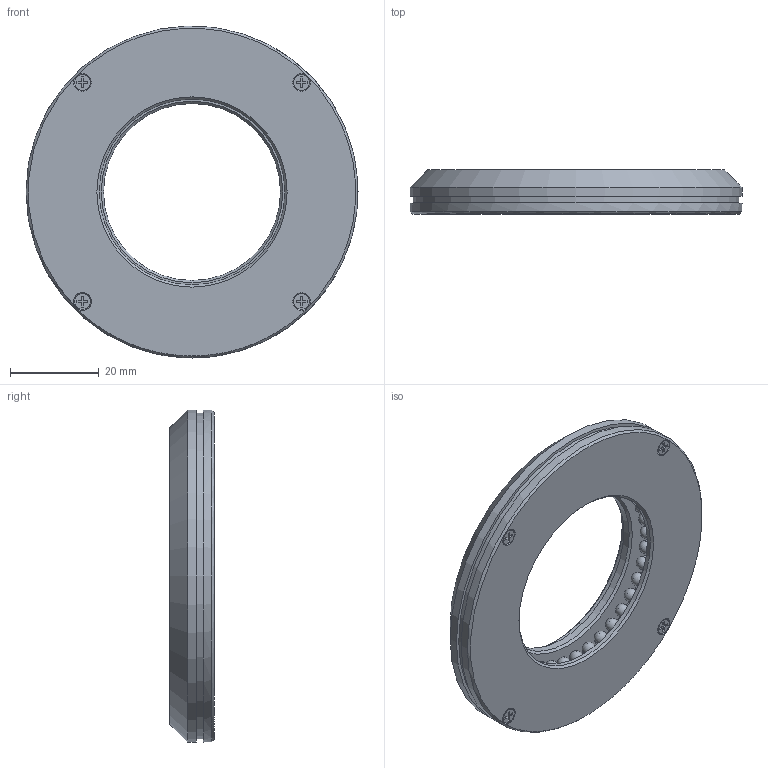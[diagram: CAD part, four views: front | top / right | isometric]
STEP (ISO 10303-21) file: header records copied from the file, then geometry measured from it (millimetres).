
FILE_DESCRIPTION((''),'2;1');
FILE_NAME('D:\上海创波-20181114\2-三维图纸\1-常用光源\WLDR系列\WLDR1系列-xxAGxx\WLDR-90AG75-.stp','2020-02-06T22:21:08',('Administrator'),(''),'Autodesk Inventor 2010','Autodesk Inventor 2010','');
FILE_SCHEMA(('AUTOMOTIVE_DESIGN { 1 0 10303 214 1 1 1 1 }'));
Length unit declared in the file: millimetre
Products named in the file (1): 零件23
Bounding box: 75 x 10 x 75 mm (x, y, z)
Volume: 19096.4 mm3; surface area: 18434 mm2
Topology: 41 solids, 41 shells, 342 faces, 776 edges, 490 vertices
Faces by surface type: plane 181, cylinder 87, sphere 36, bspline 25, cone 13
Full cylindrical faces by diameter (mm): 1 x1, 2 x4, 3 x37, 40 x1, 42 x2, 53 x1, 55 x1, 67 x1, 73.5 x1, 75 x2
Entity records: 8878 total; most frequent: CARTESIAN_POINT 1841, DIRECTION 1390, ORIENTED_EDGE 1092, EDGE_CURVE 546, AXIS2_PLACEMENT_3D 533, EDGE_LOOP 446, VERTEX_POINT 384, STYLED_ITEM 383
